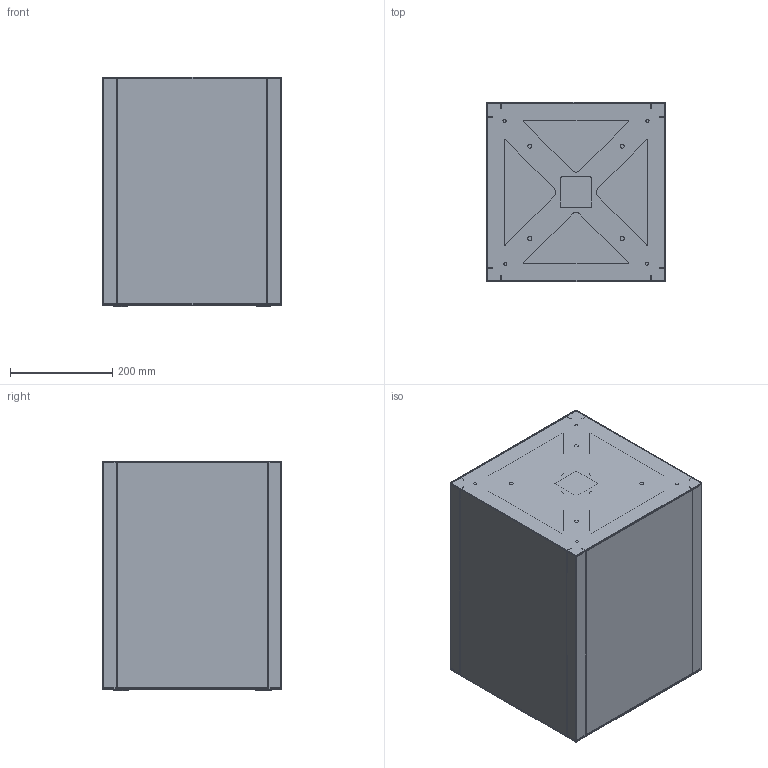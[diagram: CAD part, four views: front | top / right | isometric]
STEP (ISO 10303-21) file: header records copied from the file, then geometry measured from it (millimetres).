
FILE_DESCRIPTION(/* description */ ('Unknown'),/* implementation_level */ '2;1');
FILE_NAME(/* name */ 'Stolik 350 sześcian',/* time_stamp */ '2023-09-05T12:13:16+02:00',/* author */ ('Unknown'),/* organization */ ('Unknown'),/* preprocessor_version */ 'ST-DEVELOPER v16.7',/* originating_system */ 'Solid Edge',/* authorisation */ 'Unknown');
FILE_SCHEMA (('AUTOMOTIVE_DESIGN {1 0 10303 214 3 1 1}'));
Length unit declared in the file: millimetre
Products named in the file (6): Stolik 350; 350x350; Blat 350; Wzmocnienie 350; Stopa; Wrêga 350
Assembly tree (16 placements, depth 2):
  Stolik 350
    350x350
    Blat 350
    Wzmocnienie 350  x2
    Stopa  x4
    Wrêga 350  x8
Bounding box: 350 x 350 x 450 mm (x, y, z)
Volume: 1251690.6 mm3; surface area: 1965076.7 mm2
Topology: 16 solids, 16 shells, 382 faces, 1046 edges, 700 vertices
Faces by surface type: plane 220, cylinder 154, cone 8
Full cylindrical faces by diameter (mm): 5.8 x4, 6 x8, 8 x8, 29 x4
Entity records: 5039 total; most frequent: DIRECTION 864, CARTESIAN_POINT 844, ORIENTED_EDGE 804, EDGE_CURVE 402, AXIS2_PLACEMENT_3D 294, LINE 276, VECTOR 276, VERTEX_POINT 274
